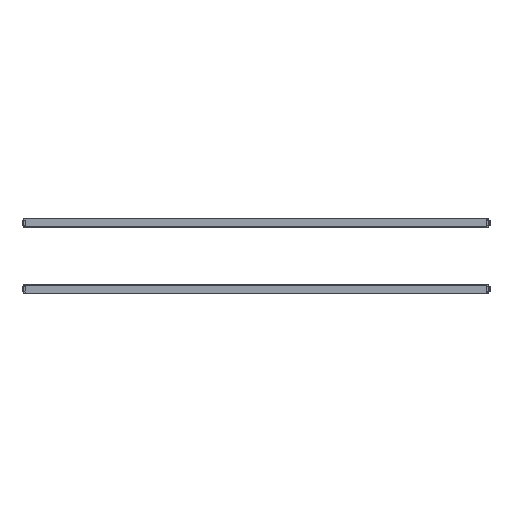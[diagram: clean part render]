
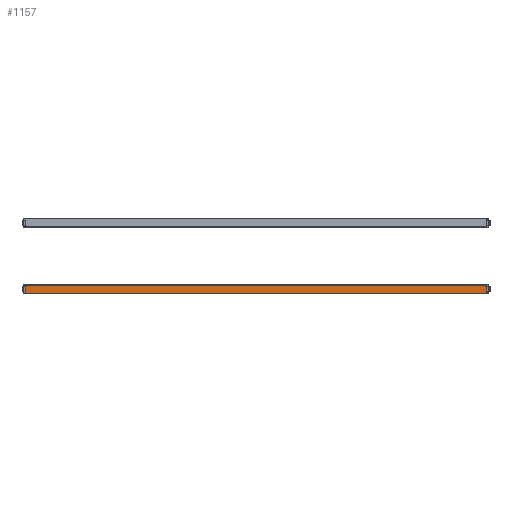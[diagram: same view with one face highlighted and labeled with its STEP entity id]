
A CAD part, left-side view. The second image highlights one B-rep face of the part: STEP entity #1157.
In plain terms, the highlighted planar face has unit normal (-1, 0, -0.009) as drawn and (1, 0, 0) by its records, which use the part's own axes.
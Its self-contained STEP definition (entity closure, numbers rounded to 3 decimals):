
#486 = ORIENTED_EDGE ( 'NONE', *, *, #16577, .F. ) ;
#1157 = ADVANCED_FACE ( 'NONE', ( #2469 ), #12210, .F. ) ;
#1524 = CARTESIAN_POINT ( 'NONE',  ( 15., 0., -16.9 ) ) ;
#1957 = VECTOR ( 'NONE', #7102, 1000. ) ;
#2469 = FACE_OUTER_BOUND ( 'NONE', #5417, .T. ) ;
#3283 = DIRECTION ( 'NONE',  ( 0., 0., -1. ) ) ;
#3398 = ORIENTED_EDGE ( 'NONE', *, *, #8785, .T. ) ;
#4697 = AXIS2_PLACEMENT_3D ( 'NONE', #17765, #5305, #10863 ) ;
#4965 = VERTEX_POINT ( 'NONE', #15055 ) ;
#5219 = CARTESIAN_POINT ( 'NONE',  ( 15., 1610., -16.693 ) ) ;
#5305 = DIRECTION ( 'NONE',  ( -1., 0., 0. ) ) ;
#5342 = DIRECTION ( 'NONE',  ( 0., -1., 0. ) ) ;
#5377 = CARTESIAN_POINT ( 'NONE',  ( 15., 0., 10.9 ) ) ;
#5417 = EDGE_LOOP ( 'NONE', ( #12323, #16924, #486, #3398 ) ) ;
#5461 = EDGE_CURVE ( 'NONE', #7948, #15165, #13990, .T. ) ;
#5520 = CARTESIAN_POINT ( 'NONE',  ( 15., 1610., -16.693 ) ) ;
#7102 = DIRECTION ( 'NONE',  ( 0., 0., -1. ) ) ;
#7526 = VECTOR ( 'NONE', #11074, 1000. ) ;
#7931 = VECTOR ( 'NONE', #3283, 1000. ) ;
#7948 = VERTEX_POINT ( 'NONE', #5377 ) ;
#8785 = EDGE_CURVE ( 'NONE', #4965, #7948, #12244, .T. ) ;
#8820 = EDGE_CURVE ( 'NONE', #15165, #13514, #17995, .T. ) ;
#10209 = LINE ( 'NONE', #15747, #7931 ) ;
#10863 = DIRECTION ( 'NONE',  ( 0., 0., 1. ) ) ;
#11074 = DIRECTION ( 'NONE',  ( 0., 1., 0. ) ) ;
#12210 = PLANE ( 'NONE',  #4697 ) ;
#12244 = LINE ( 'NONE', #17808, #16227 ) ;
#12323 = ORIENTED_EDGE ( 'NONE', *, *, #5461, .T. ) ;
#12996 = CARTESIAN_POINT ( 'NONE',  ( 15., 0., -16.693 ) ) ;
#13514 = VERTEX_POINT ( 'NONE', #5219 ) ;
#13990 = LINE ( 'NONE', #1524, #1957 ) ;
#15055 = CARTESIAN_POINT ( 'NONE',  ( 15., 1610., 10.9 ) ) ;
#15165 = VERTEX_POINT ( 'NONE', #12996 ) ;
#15747 = CARTESIAN_POINT ( 'NONE',  ( 15., 1610., -16.9 ) ) ;
#16227 = VECTOR ( 'NONE', #5342, 1000. ) ;
#16577 = EDGE_CURVE ( 'NONE', #4965, #13514, #10209, .T. ) ;
#16924 = ORIENTED_EDGE ( 'NONE', *, *, #8820, .T. ) ;
#17765 = CARTESIAN_POINT ( 'NONE',  ( 15., 1610., -16.9 ) ) ;
#17808 = CARTESIAN_POINT ( 'NONE',  ( 15., 1610., 10.9 ) ) ;
#17995 = LINE ( 'NONE', #5520, #7526 ) ;
